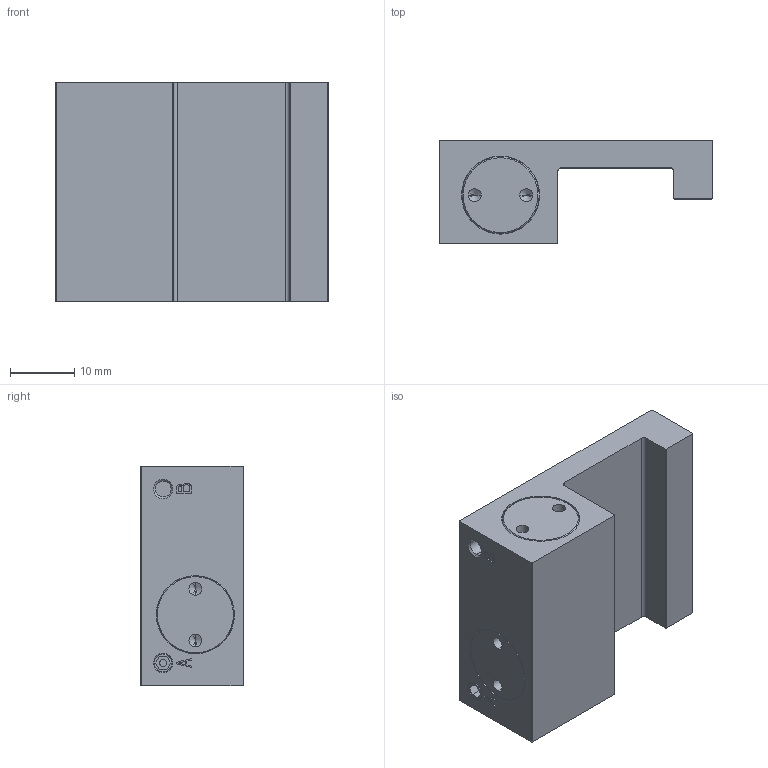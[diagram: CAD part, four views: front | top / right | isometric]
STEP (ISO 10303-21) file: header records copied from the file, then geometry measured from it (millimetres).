
FILE_DESCRIPTION( ( '' ), '1' );
FILE_NAME( 'E:/04 嬴檜蠱滌/0404 ZIMMER/040414 ZIMMER CAD download/MCP/MCP0900MW---.stp', '2020-04-16T10:01:57', ( '' ), ( '' ), ' ', ' ', ' ' );
FILE_SCHEMA( ( 'automotive_design' ) );
Length unit declared in the file: millimetre
Products named in the file (1): 1
Bounding box: 42.3 x 16.05 x 34 mm (x, y, z)
Volume: 14335.4 mm3; surface area: 5532 mm2
Topology: 1 solids, 1 shells, 114 faces, 268 edges, 168 vertices
Faces by surface type: plane 60, cylinder 32, cone 22
Entity records: 6272 total; most frequent: DIRECTION 570, STYLED_ITEM 543, PRESENTATION_STYLE_ASSIGNMENT 543, CARTESIAN_POINT 543, COLOUR_RGB 543, ORIENTED_EDGE 520, EDGE_CURVE 260, CURVE_STYLE 260
